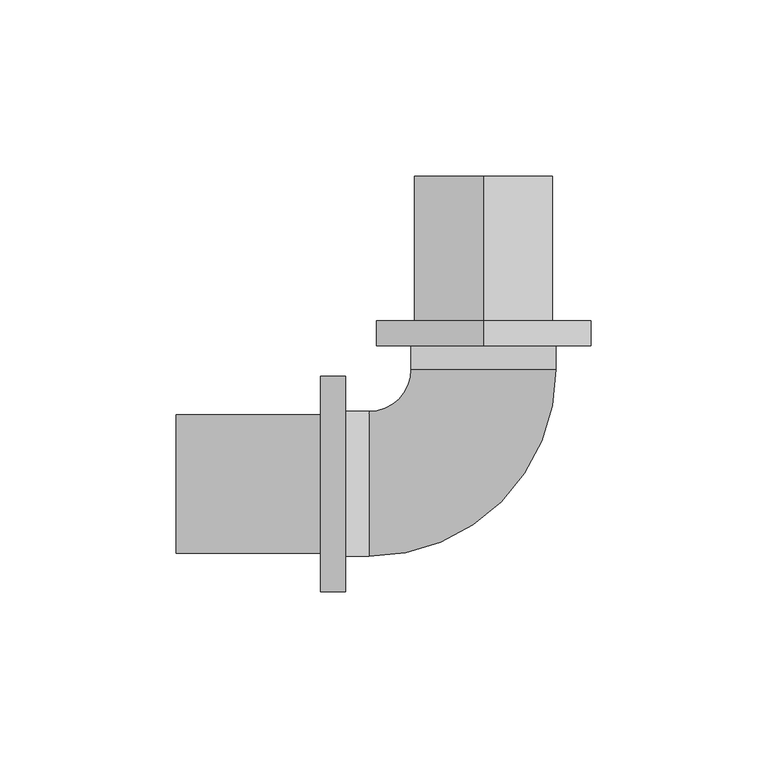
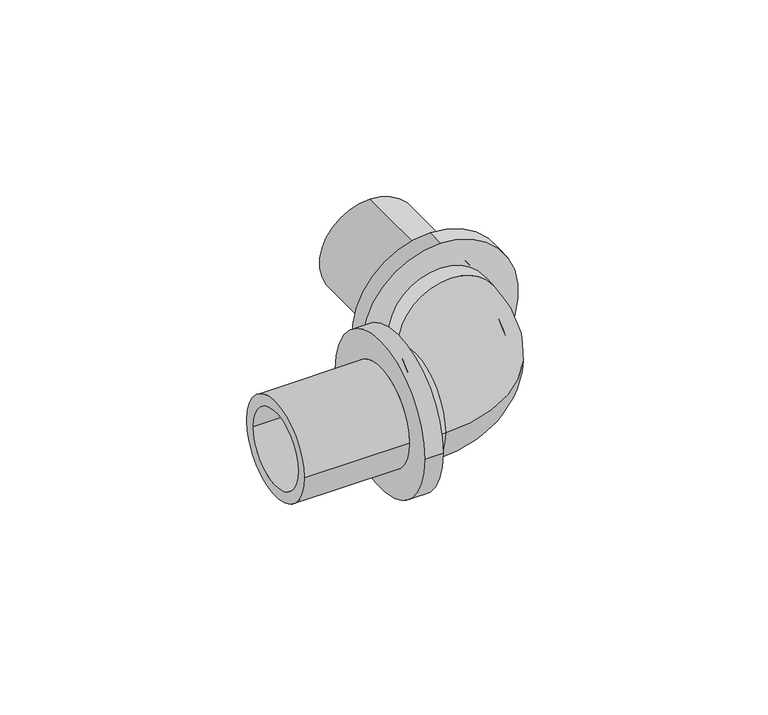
"""IFC4 building model written with IfcOpenShell, lengths in millimetres: pipe fitting geometry, RAUTITAN_Corner_RX+ : RTI RX+ C DE."""

import ifcopenshell
import ifcopenshell.guid

model = None  # the IFC model being written
_history = None  # IfcOwnerHistory: only IFC2X3 demands one
_inside = {}  # id of a spatial element -> (the spatial element, [elements in it])
_under = {}  # id of a project, library or spatial element -> (it, [spatial elements below it])
_declared = {}  # id of a project -> (the project, [libraries it declares])
_typed = {}  # id of a type object -> (the type object, [elements of that type])
_made_of = {}  # id of a material, layer set ... -> (it, [elements and type objects made of it])


def new_model(schema):
    """Start an empty IFC model of exactly this schema.

    Asked for "IFC4X3", IfcOpenShell would pick the latest addendum, in which some entities
    have other attributes; the version numbers below select the first issue.
    IFC2X3 requires an IfcOwnerHistory on every rooted entity: one is made here for all.
    """
    global model, _history
    if schema == "IFC4X3":
        model = ifcopenshell.file(schema_version=(4, 3, 0, 0))
    else:
        model = ifcopenshell.file(schema=schema)
    _inside.clear()
    _under.clear()
    _declared.clear()
    _typed.clear()
    _made_of.clear()
    _history = None
    if model.schema == "IFC2X3":
        org = make("IfcOrganization", Name="unknown")
        user = make(
            "IfcPersonAndOrganization",
            ThePerson=make("IfcPerson", FamilyName="unknown"),
            TheOrganization=org,
        )
        app = make(
            "IfcApplication",
            ApplicationDeveloper=org,
            Version="unknown",
            ApplicationFullName="unknown",
            ApplicationIdentifier="unknown",
        )
        _history = make(
            "IfcOwnerHistory",
            OwningUser=user,
            OwningApplication=app,
            ChangeAction="ADDED",
            CreationDate=0,
        )
    return model


def make(cls, **values):
    """One entity of the class cls with the attributes given. An attribute that is None is left unset."""
    return model.create_entity(
        cls, **{name: value for name, value in values.items() if value is not None}
    )


def rooted(cls, **values):
    """An entity with a GlobalId (a new one), such as an element, a storey or a relation."""
    return make(cls, GlobalId=ifcopenshell.guid.new(), OwnerHistory=_history, **values)


def si_unit(unit_type, name, prefix=None):
    """IfcSIUnit, for example si_unit("LENGTHUNIT", "METRE", prefix="MILLI")."""
    return make("IfcSIUnit", UnitType=unit_type, Prefix=prefix, Name=name)


def assignment(units):
    """IfcUnitAssignment: the units of a project."""
    return None if units is None else make("IfcUnitAssignment", Units=units)


def point(xyz):
    """IfcCartesianPoint."""
    return None if xyz is None else make("IfcCartesianPoint", Coordinates=xyz)


def direction(xyz):
    """IfcDirection."""
    return None if xyz is None else make("IfcDirection", DirectionRatios=xyz)


def frame(location, z_axis=None, x_axis=None):
    """IfcAxis2Placement3D, a coordinate frame: its origin and axes. An axis left out is left unset."""
    return make(
        "IfcAxis2Placement3D",
        Location=point(location),
        Axis=direction(z_axis),
        RefDirection=direction(x_axis),
    )


def origin():
    """The frame at (0, 0, 0) with its axes left unset."""
    return frame((0.0, 0.0, 0.0))


def place(relative_to, where):
    """IfcLocalPlacement: puts the frame where relative to a parent placement (None: the world)."""
    return make(
        "IfcLocalPlacement", PlacementRelTo=relative_to, RelativePlacement=where
    )


def context(
    kind, dimensions, precision=None, world=None, true_north=None, identifier=None
):
    """IfcGeometricRepresentationContext, for example the 3D "Model" context."""
    return make(
        "IfcGeometricRepresentationContext",
        ContextIdentifier=identifier,
        ContextType=kind,
        CoordinateSpaceDimension=dimensions,
        Precision=precision,
        WorldCoordinateSystem=world,
        TrueNorth=true_north,
    )


def project(units=None, contexts=None):
    """IfcProject with its units and contexts."""
    return rooted(
        "IfcProject",
        Name="project",
        RepresentationContexts=contexts,
        UnitsInContext=assignment(units),
    )


def spatial(cls, under=None, at=None, **own):
    """A site, building, storey or space (cls), placed at a placement, below another one or the project."""
    s = rooted(cls, ObjectPlacement=at, **own)
    if under is not None:
        _under.setdefault(under.id(), (under, []))[1].append(s)
    return s


def polyline(points):
    """IfcPolyline through the points."""
    return make("IfcPolyline", Points=[point(p) for p in points])


def circle_curve(where, radius):
    """IfcCircle in the frame where."""
    return make("IfcCircle", Position=where, Radius=radius)


def ellipse_curve(where, semi_axis1, semi_axis2):
    """IfcEllipse in the frame where."""
    return make(
        "IfcEllipse", Position=where, SemiAxis1=semi_axis1, SemiAxis2=semi_axis2
    )


def trimmed(basis, trim1, trim2, sense, master):
    """IfcTrimmedCurve: the piece of a basis curve between two trims."""
    return make(
        "IfcTrimmedCurve",
        BasisCurve=basis,
        Trim1=trim1,
        Trim2=trim2,
        SenseAgreement=sense,
        MasterRepresentation=master,
    )


def shape(context_of_items, identifier, shape_type, items):
    """IfcShapeRepresentation: the items that make up one representation, for example the "Body"."""
    return make(
        "IfcShapeRepresentation",
        ContextOfItems=context_of_items,
        RepresentationIdentifier=identifier,
        RepresentationType=shape_type,
        Items=items,
    )


def source(mapping_origin, context_of_items, identifier, shape_type, items):
    """IfcRepresentationMap: a shape defined once, which mapped items show again and again."""
    return make(
        "IfcRepresentationMap",
        MappingOrigin=mapping_origin,
        MappedRepresentation=shape(context_of_items, identifier, shape_type, items),
    )


def transform(
    local_origin,
    x_axis=None,
    y_axis=None,
    z_axis=None,
    scale=None,
    scale2=None,
    scale3=None,
    uniform=True,
):
    """IfcCartesianTransformationOperator3D, or its non-uniform kind. x_axis, y_axis, z_axis: its Axis1, 2, 3."""
    if uniform:
        return make(
            "IfcCartesianTransformationOperator3D",
            Axis1=direction(x_axis),
            Axis2=direction(y_axis),
            LocalOrigin=point(local_origin),
            Scale=scale,
            Axis3=direction(z_axis),
        )
    return make(
        "IfcCartesianTransformationOperator3DnonUniform",
        Axis1=direction(x_axis),
        Axis2=direction(y_axis),
        LocalOrigin=point(local_origin),
        Scale=scale,
        Axis3=direction(z_axis),
        Scale2=scale2,
        Scale3=scale3,
    )


def mapped(mapping_source, mapping_target):
    """IfcMappedItem: shows the shape of a source again, moved by a transform."""
    return make(
        "IfcMappedItem", MappingSource=mapping_source, MappingTarget=mapping_target
    )


def made_of(thing, what):
    """Note that an element or type object is made of a material, layer set ...; save() writes the relation."""
    if what is not None:
        _made_of.setdefault(what.id(), (what, []))[1].append(thing)
    return thing


def element(
    cls,
    number,
    at=None,
    inside=None,
    cuts=None,
    type_object=None,
    material=None,
    context=None,
    identifier="Body",
    shape_type=None,
    held_by="IfcProductDefinitionShape",
    body=None,
    shapes=None,
    **own,
):
    """One element of the class cls, such as IfcWall. Its Tag is "e" and its number.

    at: its placement. inside: the storey or other place that contains it. cuts: it is an
    opening in that element (IfcRelVoidsElement). A single representation is given by context,
    identifier, shape_type and body (its items); several are given by shapes. held_by: the class
    of the entity that holds the representations. save() writes the other relations.
    """
    e = rooted(cls, Tag="e%d" % number, ObjectPlacement=at, **own)
    if body is not None:
        shapes = [shape(context, identifier, shape_type, body)]
    if shapes is not None:
        e.Representation = make(held_by, Representations=shapes)
    if inside is not None:
        _inside.setdefault(inside.id(), (inside, []))[1].append(e)
    if cuts is not None:
        rooted(
            "IfcRelVoidsElement", RelatingBuildingElement=cuts, RelatedOpeningElement=e
        )
    if type_object is not None:
        _typed.setdefault(type_object.id(), (type_object, []))[1].append(e)
    return made_of(e, material)


def aggregate(whole, parts):
    """IfcRelAggregates: a whole, such as a stair, and the parts it consists of."""
    return rooted("IfcRelAggregates", RelatingObject=whole, RelatedObjects=parts)


def save(model, path):
    """Write the relations noted so far, then the file.

    IfcRelAggregates (storeys below a building ...), IfcRelContainedInSpatialStructure (elements
    in a storey), IfcRelDefinesByType, IfcRelAssociatesMaterial and IfcRelDeclares: one each for
    every whole, place, type object, material and project.
    """
    for whole, parts in _under.values():
        aggregate(whole, parts)
    for where, things in _inside.values():
        rooted(
            "IfcRelContainedInSpatialStructure",
            RelatedElements=things,
            RelatingStructure=where,
        )
    for kind, things in _typed.values():
        rooted("IfcRelDefinesByType", RelatedObjects=things, RelatingType=kind)
    for what, things in _made_of.values():
        rooted("IfcRelAssociatesMaterial", RelatedObjects=things, RelatingMaterial=what)
    for by, libraries in _declared.values():
        rooted("IfcRelDeclares", RelatingContext=by, RelatedDefinitions=libraries)
    model.write(path)


def plane_surface(at):
    """IfcPlane: the flat surface through the origin of the frame at, square to its z axis."""
    return make("IfcPlane", Position=at)


def cylinder_surface(at, radius):
    """IfcCylindricalSurface: all points at the distance radius from the z axis of the frame at."""
    return make("IfcCylindricalSurface", Position=at, Radius=radius)


def revolved_surface(curve, axis_point, axis_direction):
    """IfcSurfaceOfRevolution: the curve turned about the line through axis_point along axis_direction."""
    return make(
        "IfcSurfaceOfRevolution",
        SweptCurve=make("IfcArbitraryOpenProfileDef", ProfileType="CURVE", Curve=curve),
        AxisPosition=make("IfcAxis1Placement", Location=point(axis_point), Axis=direction(axis_direction)),
    )


def advanced_brep(points, edges, surfaces, faces):
    """IfcAdvancedBrep: a solid bounded by faces that lie on surfaces and meet in shared edges.

    An edge is (start, end): straight between two places in points (the first is 0);
    or (start, end, curve); or (start, end, curve, False) where it runs against its curve.
    A face is (place in surfaces, loops), or (place, loops, False) where it looks against
    its surface's normal. A loop lists edges by number (the first is 1), with a minus sign
    where the edge is run from its end to its start. The first loop is the outer one.
    """
    corners = [point(p) for p in points]
    vertices = [make("IfcVertexPoint", VertexGeometry=c) for c in corners]
    made = []
    for start, end, *more in edges:
        made.append(
            make(
                "IfcEdgeCurve",
                EdgeStart=vertices[start],
                EdgeEnd=vertices[end],
                EdgeGeometry=more[0] if more else make("IfcPolyline", Points=[corners[start], corners[end]]),
                SameSense=more[1] if len(more) > 1 else True,
            )
        )
    hull = []
    for where, loops, *sense in faces:
        bounds = []
        for j, loop in enumerate(loops):
            ring = [make("IfcOrientedEdge", EdgeElement=made[abs(k) - 1], Orientation=k > 0) for k in loop]
            bounds.append(
                make(
                    "IfcFaceOuterBound" if j == 0 else "IfcFaceBound",
                    Bound=make("IfcEdgeLoop", EdgeList=ring),
                    Orientation=True,
                )
            )
        hull.append(make("IfcAdvancedFace", Bounds=bounds, FaceSurface=surfaces[where], SameSense=sense[0] if sense else True))
    return make("IfcAdvancedBrep", Outer=make("IfcClosedShell", CfsFaces=hull))


def pipe_fitting_861f7b7c(model_context):
    return source(origin(), model_context, "Body", "AdvancedBrep", [
        advanced_brep(
        [(-39.2, 20.55, 0.0), (-39.2, -20.55, 0.0), (-39.2, 15.25, 0.0), (-39.2, -15.25, 0.0), (-32.5, -15.25, 0.0), (-32.5, 15.25, 0.0), (-32.5, -20.55, 0.0), (-32.5, 20.55, 0.0), (20.55, 39.2, 0.0), (-20.55, 39.2, 0.0), (15.25, 39.2, 0.0), (-15.25, 39.2, 0.0), (-15.25, 32.5, 0.0), (15.25, 32.5, 0.0), (-20.55, 32.5, 0.0), (20.55, 32.5, 0.0)],
        [
            (0, 1, circle_curve(frame((-39.2, 0.0, 0.0), z_axis=(-1.0, 0.0, 0.0), x_axis=(0.0, -1.0, 0.0)), 20.55)),
            (1, 0, circle_curve(frame((-39.2, 0.0, 0.0), z_axis=(-1.0, 0.0, 0.0), x_axis=(0.0, -1.0, 0.0)), 20.55)),
            (2, 3, circle_curve(frame((-39.2, 0.0, 0.0), z_axis=(1.0, 0.0, 0.0), x_axis=(0.0, -1.0, 0.0)), 15.25)),
            (3, 2, circle_curve(frame((-39.2, 0.0, 0.0), z_axis=(1.0, 0.0, 0.0), x_axis=(0.0, -1.0, 0.0)), 15.25)),
            (3, 4),
            (4, 5, circle_curve(frame((-32.5, 0.0, 0.0), z_axis=(1.0, 0.0, 0.0), x_axis=(0.0, -1.0, 0.0)), 15.25)),
            (5, 2),
            (5, 4, circle_curve(frame((-32.5, 0.0, 0.0), z_axis=(1.0, 0.0, 0.0), x_axis=(0.0, -1.0, 0.0)), 15.25)),
            (1, 6),
            (6, 7, circle_curve(frame((-32.5, 0.0, 0.0), z_axis=(-1.0, 0.0, 0.0), x_axis=(0.0, -1.0, 0.0)), 20.55)),
            (7, 0),
            (7, 6, circle_curve(frame((-32.5, 0.0, 0.0), z_axis=(-1.0, 0.0, 0.0), x_axis=(0.0, -1.0, 0.0)), 20.55)),
            (8, 9, circle_curve(frame((0.0, 39.2, 0.0), z_axis=(0.0, 1.0, 0.0), x_axis=(-1.0, 0.0, 0.0)), 20.55)),
            (9, 8, circle_curve(frame((0.0, 39.2, 0.0), z_axis=(0.0, 1.0, 0.0), x_axis=(-1.0, 0.0, 0.0)), 20.55)),
            (10, 11, circle_curve(frame((0.0, 39.2, 0.0), z_axis=(0.0, -1.0, 0.0), x_axis=(-1.0, 0.0, 0.0)), 15.25)),
            (11, 10, circle_curve(frame((0.0, 39.2, 0.0), z_axis=(0.0, -1.0, 0.0), x_axis=(-1.0, 0.0, 0.0)), 15.25)),
            (11, 12),
            (12, 13, circle_curve(frame((0.0, 32.5, 0.0), z_axis=(0.0, -1.0, 0.0), x_axis=(-1.0, 0.0, 0.0)), 15.25)),
            (13, 10),
            (13, 12, circle_curve(frame((0.0, 32.5, 0.0), z_axis=(0.0, -1.0, 0.0), x_axis=(-1.0, 0.0, 0.0)), 15.25)),
            (9, 14),
            (14, 15, circle_curve(frame((0.0, 32.5, 0.0), z_axis=(0.0, 1.0, 0.0), x_axis=(-1.0, 0.0, 0.0)), 20.55)),
            (15, 8),
            (15, 14, circle_curve(frame((0.0, 32.5, 0.0), z_axis=(0.0, 1.0, 0.0), x_axis=(-1.0, 0.0, 0.0)), 20.55)),
            (12, 5, circle_curve(frame((-32.5, 32.5, 0.0), z_axis=(0.0, 0.0, -1.0), x_axis=(0.0, -1.0, 0.0)), 17.25)),
            (4, 13, circle_curve(frame((-32.5, 32.5, 0.0), z_axis=(0.0, 0.0, 1.0), x_axis=(0.0, -1.0, 0.0)), 47.75)),
            (14, 7, circle_curve(frame((-32.5, 32.5, 0.0), z_axis=(0.0, 0.0, -1.0), x_axis=(0.0, -1.0, 0.0)), 11.95)),
            (6, 15, circle_curve(frame((-32.5, 32.5, 0.0), z_axis=(0.0, 0.0, 1.0), x_axis=(0.0, -1.0, 0.0)), 53.05)),
        ],
        [
            plane_surface(frame((-39.2, 0.0, 0.0), z_axis=(-1.0, 0.0, 0.0), x_axis=(0.0, 0.0, 1.0))),
            revolved_surface(polyline([(-39.2, -15.25, 0.0), (-32.5, -15.25, 0.0)]), (-32.5, 0.0, 0.0), (-1.0, 0.0, 0.0)),
            cylinder_surface(frame((-32.5, 0.0, 0.0), z_axis=(1.0, 0.0, 0.0), x_axis=(0.0, -1.0, 0.0)), 20.55),
            plane_surface(frame((0.0, 39.2, 0.0), z_axis=(0.0, 1.0, 0.0), x_axis=(0.0, 0.0, 1.0))),
            revolved_surface(polyline([(-15.25, 39.2, 0.0), (-15.25, 32.5, 0.0)]), (0.0, 32.5, 0.0), (0.0, 1.0, 0.0)),
            cylinder_surface(frame((0.0, 32.5, 0.0), z_axis=(0.0, -1.0, 0.0), x_axis=(-1.0, 0.0, 0.0)), 20.55),
            revolved_surface(trimmed(ellipse_curve(frame((-32.5, 0.0, 0.0), z_axis=(1.0, 0.0, 0.0), x_axis=(0.0, 1.0, 0.0)), 15.25, 15.25), [point((-32.5, -15.25, 0.0))], [point((-32.5, 15.25, 0.0))], True, "CARTESIAN"), (-32.5, 32.5, 0.0), (0.0, 0.0, 1.0)),
            revolved_surface(trimmed(ellipse_curve(frame((-32.5, 0.0, 0.0), z_axis=(1.0, 0.0, 0.0), x_axis=(0.0, 1.0, 0.0)), 15.25, 15.25), [point((-32.5, 15.25, 0.0))], [point((-32.5, -15.25, 0.0))], True, "CARTESIAN"), (-32.5, 32.5, 0.0), (0.0, 0.0, 1.0)),
            revolved_surface(trimmed(ellipse_curve(frame((-32.5, 0.0, 0.0), z_axis=(-1.0, 0.0, 0.0), x_axis=(0.0, 1.0, 0.0)), 20.55, 20.55), [point((-32.5, -20.55, 0.0))], [point((-32.5, 20.55, 0.0))], True, "CARTESIAN"), (-32.5, 32.5, 0.0), (0.0, 0.0, 1.0)),
            revolved_surface(trimmed(ellipse_curve(frame((-32.5, 0.0, 0.0), z_axis=(-1.0, 0.0, 0.0), x_axis=(0.0, 1.0, 0.0)), 20.55, 20.55), [point((-32.5, 20.55, 0.0))], [point((-32.5, -20.55, 0.0))], True, "CARTESIAN"), (-32.5, 32.5, 0.0), (0.0, 0.0, 1.0)),
        ],
        [
            (0, [[1, 2], [3, 4]]),
            (1, [[-4, 5, 6, 7]]),
            (1, [[-3, -7, 8, -5]]),
            (2, [[-2, 9, 10, 11]]),
            (2, [[-1, -11, 12, -9]]),
            (3, [[13, 14], [15, 16]]),
            (4, [[-16, 17, 18, 19]]),
            (4, [[-15, -19, 20, -17]]),
            (5, [[-14, 21, 22, 23]]),
            (5, [[-13, -23, 24, -21]]),
            (6, [[25, -6, 26, -18]]),
            (7, [[-25, -20, -26, -8]]),
            (8, [[27, -10, 28, -22]]),
            (9, [[-27, -24, -28, -12]]),
        ],
    ),
        advanced_brep(
        [(-46.2, -30.55, 0.0), (-46.2, 30.55, 0.0), (-39.2, 30.55, 0.0), (-39.2, -30.55, 0.0), (-87.2, -19.65, 0.0), (-87.2, 19.65, 0.0), (-46.2, 19.65, 0.0), (-46.2, -19.65, 0.0), (-39.2, -15.25, 0.0), (-39.2, 15.25, 0.0), (-87.2, 15.25, 0.0), (-87.2, -15.25, 0.0)],
        [
            (0, 1, circle_curve(frame((-46.2, 0.0, 0.0), z_axis=(1.0, 0.0, 0.0), x_axis=(0.0, 1.0, 0.0)), 30.55)),
            (1, 2),
            (2, 3, circle_curve(frame((-39.2, 0.0, 0.0), z_axis=(-1.0, 0.0, 0.0), x_axis=(0.0, 1.0, 0.0)), 30.55)),
            (3, 0),
            (4, 5, circle_curve(frame((-87.2, 0.0, 0.0), z_axis=(1.0, 0.0, 0.0), x_axis=(0.0, 1.0, 0.0)), 19.65)),
            (5, 6),
            (6, 7, circle_curve(frame((-46.2, 0.0, 0.0), z_axis=(-1.0, 0.0, 0.0), x_axis=(0.0, 1.0, 0.0)), 19.65)),
            (7, 4),
            (8, 9, circle_curve(frame((-39.2, 0.0, 0.0), z_axis=(1.0, 0.0, 0.0), x_axis=(0.0, 1.0, 0.0)), 15.25)),
            (9, 10),
            (10, 11, circle_curve(frame((-87.2, 0.0, 0.0), z_axis=(-1.0, 0.0, 0.0), x_axis=(0.0, 1.0, 0.0)), 15.25)),
            (11, 8),
            (1, 0, circle_curve(frame((-46.2, 0.0, 0.0), z_axis=(1.0, 0.0, 0.0), x_axis=(0.0, -1.0, 0.0)), 30.55)),
            (3, 2, circle_curve(frame((-39.2, 0.0, 0.0), z_axis=(-1.0, 0.0, 0.0), x_axis=(0.0, -1.0, 0.0)), 30.55)),
            (6, 7, circle_curve(frame((-46.2, 0.0, 0.0), z_axis=(1.0, 0.0, 0.0), x_axis=(0.0, -1.0, 0.0)), 19.65)),
            (5, 4, circle_curve(frame((-87.2, 0.0, 0.0), z_axis=(1.0, 0.0, 0.0), x_axis=(0.0, -1.0, 0.0)), 19.65)),
            (10, 11, circle_curve(frame((-87.2, 0.0, 0.0), z_axis=(1.0, 0.0, 0.0), x_axis=(0.0, -1.0, 0.0)), 15.25)),
            (9, 8, circle_curve(frame((-39.2, 0.0, 0.0), z_axis=(1.0, 0.0, 0.0), x_axis=(0.0, -1.0, 0.0)), 15.25)),
        ],
        [
            cylinder_surface(frame((-39.2, 0.0, 0.0), z_axis=(-1.0, 0.0, 0.0), x_axis=(0.0, 1.0, 0.0)), 30.55),
            cylinder_surface(frame((-39.2, 0.0, 0.0), z_axis=(-1.0, 0.0, 0.0), x_axis=(0.0, 1.0, 0.0)), 19.65),
            revolved_surface(polyline([(-87.2, 15.25, 0.0), (-39.2, 15.25, 0.0)]), (-39.2, 0.0, 0.0), (-1.0, 0.0, 0.0)),
            cylinder_surface(frame((-39.2, 0.0, 0.0), z_axis=(-1.0, 0.0, 0.0), x_axis=(0.0, -1.0, 0.0)), 30.55),
            plane_surface(frame((-46.2, 0.0, 0.0), z_axis=(-1.0, 0.0, 0.0), x_axis=(0.0, -1.0, 0.0))),
            cylinder_surface(frame((-39.2, 0.0, 0.0), z_axis=(-1.0, 0.0, 0.0), x_axis=(0.0, -1.0, 0.0)), 19.65),
            plane_surface(frame((-87.2, 0.0, 0.0), z_axis=(-1.0, 0.0, 0.0), x_axis=(0.0, -1.0, 0.0))),
            revolved_surface(polyline([(-87.2, -15.25, 0.0), (-39.2, -15.25, 0.0)]), (-39.2, 0.0, 0.0), (-1.0, 0.0, 0.0)),
            plane_surface(frame((-39.2, 0.0, 0.0), z_axis=(1.0, 0.0, 0.0), x_axis=(0.0, -1.0, 0.0))),
        ],
        [
            (0, [[1, 2, 3, 4]]),
            (1, [[5, 6, 7, 8]]),
            (2, [[9, 10, 11, 12]]),
            (3, [[13, -4, 14, -2]]),
            (4, [[-13, -1], [15, -7]]),
            (5, [[16, -8, -15, -6]]),
            (6, [[-16, -5], [17, -11]]),
            (7, [[18, -12, -17, -10]]),
            (8, [[-14, -3], [-18, -9]]),
        ],
    ),
        advanced_brep(
        [(0.0, 46.2, 30.9749044), (0.0, 46.2, -30.1250956), (0.0, 39.2, -30.1250956), (0.0, 39.2, 30.9749044), (0.0, 87.2, 20.0749044), (0.0, 87.2, -19.2250956), (0.0, 46.2, -19.2250956), (0.0, 46.2, 20.0749044), (0.0, 39.2, 15.6749044), (0.0, 39.2, -14.8250956), (0.0, 87.2, -14.8250956), (0.0, 87.2, 15.6749044)],
        [
            (0, 1, circle_curve(frame((0.0, 46.2, 0.4249044), z_axis=(0.0, -1.0, 0.0), x_axis=(0.0, 0.0, -1.0)), 30.55)),
            (1, 2),
            (2, 3, circle_curve(frame((0.0, 39.2, 0.4249044), z_axis=(0.0, 1.0, 0.0), x_axis=(0.0, 0.0, -1.0)), 30.55)),
            (3, 0),
            (4, 5, circle_curve(frame((0.0, 87.2, 0.4249044), z_axis=(0.0, -1.0, 0.0), x_axis=(0.0, 0.0, -1.0)), 19.65)),
            (5, 6),
            (6, 7, circle_curve(frame((0.0, 46.2, 0.4249044), z_axis=(0.0, 1.0, 0.0), x_axis=(0.0, 0.0, -1.0)), 19.65)),
            (7, 4),
            (8, 9, circle_curve(frame((0.0, 39.2, 0.4249044), z_axis=(0.0, -1.0, 0.0), x_axis=(0.0, 0.0, -1.0)), 15.25)),
            (9, 10),
            (10, 11, circle_curve(frame((0.0, 87.2, 0.4249044), z_axis=(0.0, 1.0, 0.0), x_axis=(0.0, 0.0, -1.0)), 15.25)),
            (11, 8),
            (1, 0, circle_curve(frame((0.0, 46.2, 0.4249044), z_axis=(0.0, -1.0, 0.0), x_axis=(0.0, 0.0, 1.0)), 30.55)),
            (3, 2, circle_curve(frame((0.0, 39.2, 0.4249044), z_axis=(0.0, 1.0, 0.0), x_axis=(0.0, 0.0, 1.0)), 30.55)),
            (6, 7, circle_curve(frame((0.0, 46.2, 0.4249044), z_axis=(0.0, -1.0, 0.0), x_axis=(0.0, 0.0, 1.0)), 19.65)),
            (5, 4, circle_curve(frame((0.0, 87.2, 0.4249044), z_axis=(0.0, -1.0, 0.0), x_axis=(0.0, 0.0, 1.0)), 19.65)),
            (10, 11, circle_curve(frame((0.0, 87.2, 0.4249044), z_axis=(0.0, -1.0, 0.0), x_axis=(0.0, 0.0, 1.0)), 15.25)),
            (9, 8, circle_curve(frame((0.0, 39.2, 0.4249044), z_axis=(0.0, -1.0, 0.0), x_axis=(0.0, 0.0, 1.0)), 15.25)),
        ],
        [
            cylinder_surface(frame((0.0, 39.2, 0.4249044), z_axis=(0.0, 1.0, 0.0), x_axis=(0.0, 0.0, -1.0)), 30.55),
            cylinder_surface(frame((0.0, 39.2, 0.4249044), z_axis=(0.0, 1.0, 0.0), x_axis=(0.0, 0.0, -1.0)), 19.65),
            revolved_surface(polyline([(0.0, 87.2, -14.8250956), (0.0, 39.2, -14.8250956)]), (0.0, 39.2, 0.4249044), (0.0, 1.0, 0.0)),
            cylinder_surface(frame((0.0, 39.2, 0.4249044), z_axis=(0.0, 1.0, 0.0), x_axis=(0.0, 0.0, 1.0)), 30.55),
            plane_surface(frame((0.0, 46.2, 0.4249044), z_axis=(0.0, 1.0, 0.0), x_axis=(0.0, 0.0, 1.0))),
            cylinder_surface(frame((0.0, 39.2, 0.4249044), z_axis=(0.0, 1.0, 0.0), x_axis=(0.0, 0.0, 1.0)), 19.65),
            plane_surface(frame((0.0, 87.2, 0.4249044), z_axis=(0.0, 1.0, 0.0), x_axis=(0.0, 0.0, 1.0))),
            revolved_surface(polyline([(0.0, 87.2, 15.6749044), (0.0, 39.2, 15.6749044)]), (0.0, 39.2, 0.4249044), (0.0, 1.0, 0.0)),
            plane_surface(frame((0.0, 39.2, 0.4249044), z_axis=(0.0, -1.0, 0.0), x_axis=(0.0, 0.0, 1.0))),
        ],
        [
            (0, [[1, 2, 3, 4]]),
            (1, [[5, 6, 7, 8]]),
            (2, [[9, 10, 11, 12]]),
            (3, [[13, -4, 14, -2]]),
            (4, [[-13, -1], [15, -7]]),
            (5, [[16, -8, -15, -6]]),
            (6, [[-16, -5], [17, -11]]),
            (7, [[18, -12, -17, -10]]),
            (8, [[-14, -3], [-18, -9]]),
        ],
    ),
    ])


if __name__ == "__main__":
    model = new_model("IFC4")
    model_context = context("Model", 3, world=origin())
    ifc_project = project(units=[si_unit("LENGTHUNIT", "METRE", prefix="MILLI")], contexts=[model_context])
    site = spatial("IfcSite", under=ifc_project)
    building = spatial("IfcBuilding", under=site)
    placement = place(None, origin())
    pipe_fitting_shape = pipe_fitting_861f7b7c(model_context)
    element("IfcPipeFitting", 1, ObjectType="RAUTITAN_Corner_RX+ : RTI RX+ C DE", at=placement, inside=building, context=model_context, shape_type="MappedRepresentation", body=[
        mapped(pipe_fitting_shape, transform((0.0, 0.0, 0.0), x_axis=(1.0, 0.0, 0.0), y_axis=(0.0, 1.0, 0.0), z_axis=(0.0, 0.0, 1.0))),
    ])
    save(model, "model.ifc")
